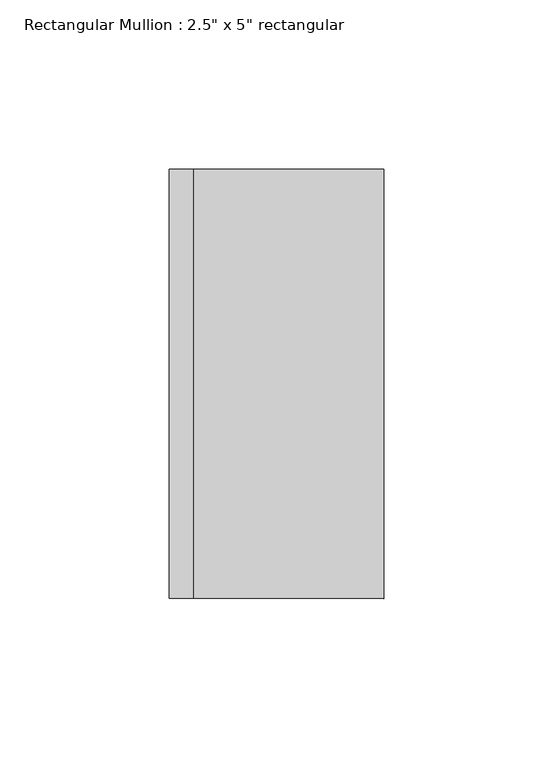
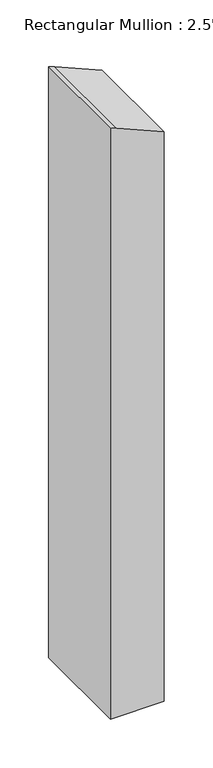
"""IFC4 building model written with IfcOpenShell, lengths in millimetres: member geometry."""

from ifc_helpers import new_model, si_unit, frame, origin, place, context, project, spatial, circle_curve, source, transform, mapped, element, save
from ifc_brep_helpers import plane_surface, cylinder_surface, advanced_brep


def member_914f3392(model_context):
    return source(origin(), model_context, "Body", "AdvancedBrep", [
        advanced_brep(
        [(31.75, 63.5, -795.5642859), (31.75, -63.5, -795.5642859), (-31.75, -63.5, -795.5642859), (-31.75, 63.5, -795.5642859), (-31.75, 63.5, -55.5712456), (-24.422947, 63.5, -58.6154395), (31.75, 63.5, -82.5387212), (-31.75, -63.5, -55.5712456), (31.75, -63.5, -82.5387212), (-24.422947, -63.5, -58.6154395)],
        [
            (0, 1),
            (1, 2),
            (2, 3),
            (3, 0),
            (4, 5, circle_curve(frame((-1524.0, 63.5, -3657.6), z_axis=(0.0, 1.0, 0.0), x_axis=(0.07692307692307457, 0.0, 0.9970370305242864)), 3898.9)),
            (5, 6, circle_curve(frame((-1524.0, 63.5, -3657.6), z_axis=(0.0, 1.0, 0.0), x_axis=(0.38461538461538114, 0.0, 0.9230769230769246)), 3898.9)),
            (6, 0),
            (3, 4),
            (7, 4),
            (2, 7),
            (8, 9, circle_curve(frame((-1524.0, -63.5, -3657.6), z_axis=(0.0, -1.0, 0.0), x_axis=(0.38461538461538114, 0.0, 0.9230769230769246)), 3898.9)),
            (9, 7, circle_curve(frame((-1524.0, -63.5, -3657.6), z_axis=(0.0, -1.0, 0.0), x_axis=(0.07692307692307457, 0.0, 0.9970370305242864)), 3898.9)),
            (1, 8),
            (6, 8),
            (5, 9),
        ],
        [
            plane_surface(frame((0.0, -70.9951583, -795.5642859), z_axis=(0.0, 0.0, -1.0), x_axis=(-1.0, 0.0, 0.0))),
            plane_surface(frame((31.75, 63.5, 0.0), z_axis=(0.0, 1.0, 0.0), x_axis=(0.0, 0.0, -1.0))),
            plane_surface(frame((-31.75, 63.5, 0.0), z_axis=(-1.0, 0.0, 0.0), x_axis=(0.0, 0.0, -1.0))),
            plane_surface(frame((-31.75, -63.5, 0.0), z_axis=(0.0, -1.0, 0.0), x_axis=(0.0, 0.0, -1.0))),
            plane_surface(frame((31.75, -63.5, 0.0), z_axis=(1.0, 0.0, 0.0), x_axis=(0.0, 0.0, -1.0))),
            cylinder_surface(frame((-1524.0, 0.0, -3657.6), z_axis=(0.0, 1.0, 0.0), x_axis=(0.38461538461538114, 0.0, 0.9230769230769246)), 3898.9),
            cylinder_surface(frame((-1524.0, 0.0, -3657.6), z_axis=(0.0, 1.0, 0.0), x_axis=(0.07692307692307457, 0.0, 0.9970370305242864)), 3898.9),
        ],
        [
            (0, [[1, 2, 3, 4]]),
            (1, [[5, 6, 7, -4, 8]]),
            (2, [[9, -8, -3, 10]]),
            (3, [[11, 12, -10, -2, 13]]),
            (4, [[14, -13, -1, -7]]),
            (5, [[-6, 15, -11, -14]]),
            (6, [[-5, -9, -12, -15]]),
        ],
    ),
    ])


if __name__ == "__main__":
    model = new_model("IFC4")
    model_context = context("Model", 3, world=origin())
    ifc_project = project(units=[si_unit("LENGTHUNIT", "METRE", prefix="MILLI")], contexts=[model_context])
    site = spatial("IfcSite", under=ifc_project)
    building = spatial("IfcBuilding", under=site)
    placement = place(None, origin())
    member_shape = member_914f3392(model_context)
    element("IfcMember", 1, ObjectType="Rectangular Mullion : 2.5\" x 5\" rectangular", at=placement, inside=building, context=model_context, shape_type="MappedRepresentation", body=[
        mapped(member_shape, transform((0.0, 0.0, 0.0), x_axis=(1.0, 0.0, 0.0), y_axis=(0.0, 1.0, 0.0), z_axis=(0.0, 0.0, 1.0))),
    ])
    save(model, "model.ifc")
